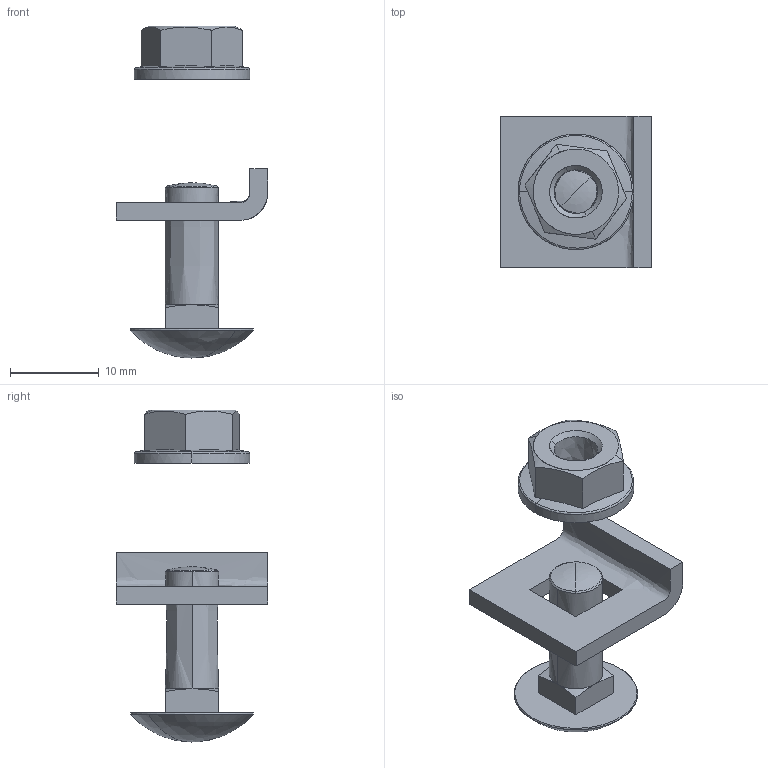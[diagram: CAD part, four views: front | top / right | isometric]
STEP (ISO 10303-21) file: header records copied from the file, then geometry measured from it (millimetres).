
FILE_DESCRIPTION(/* description */ (''),/* implementation_level */ '2;1');
FILE_NAME(/* name */ 'SVM1',/* time_stamp */ '2012-11-29T22:19:08+01:00',/* author */ (''),/* organization */ (''),/* preprocessor_version */ 'ST-DEVELOPER v10',/* originating_system */ '',/* authorisation */ '');
FILE_SCHEMA (('AUTOMOTIVE_DESIGN_CC2'));
Length unit declared in the file: millimetre
Products named in the file (1): 1
Bounding box: 17 x 17 x 37.35 mm (x, y, z)
Surface area: 1983 mm2 (no closed solid volume)
Topology: 0 solids, 42 shells, 55 faces, 236 edges, 231 vertices
Faces by surface type: bspline 38, plane 17
Entity records: 5396 total; most frequent: CARTESIAN_POINT 3796, ORIENTED_EDGE 235, EDGE_CURVE 209, VERTEX_POINT 185, B_SPLINE_CURVE_WITH_KNOTS 185, COLOUR_RGB 66, PRESENTATION_STYLE_ASSIGNMENT 66, STYLED_ITEM 66
